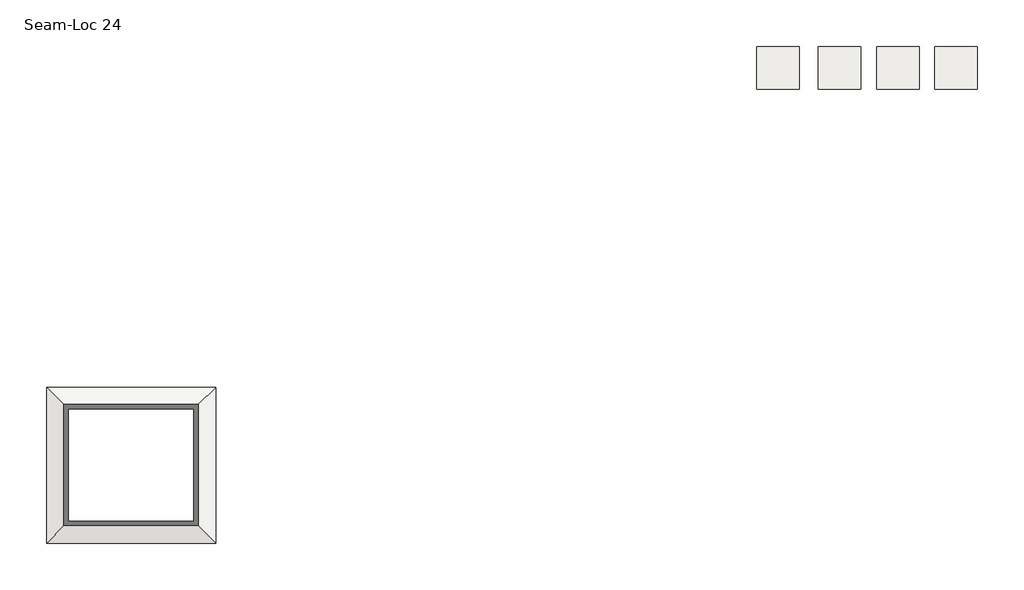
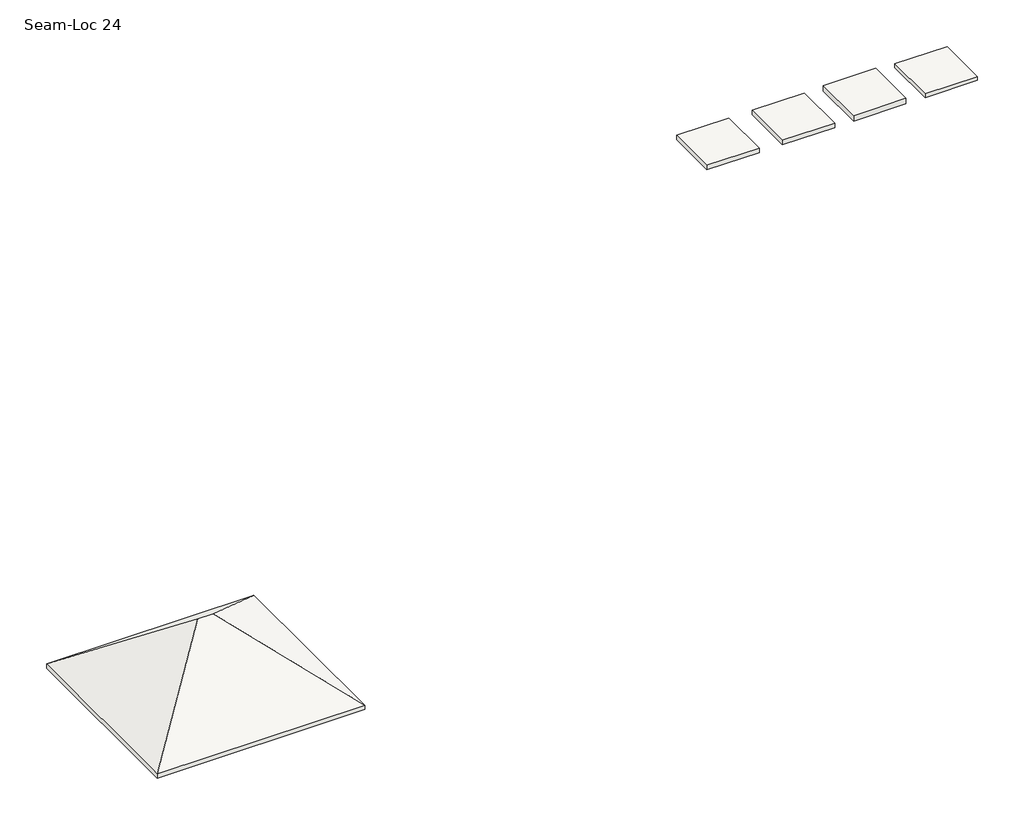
# One storey: 5 roofs.
"""IFC4 building model written with IfcOpenShell, lengths in millimetres."""

from ifc_helpers import new_model, si_unit, frame, origin, place, context, project, spatial, polyline, outline, extrude, faceted_brep, element, save

model = new_model("IFC4")

# Units and contexts
model_context = context("Model", 3, world=origin())
ifc_project = project(units=[si_unit("LENGTHUNIT", "METRE", prefix="MILLI")], contexts=[model_context])

# Site, building, storey
site = spatial("IfcSite", under=ifc_project)
building = spatial("IfcBuilding", under=site)
storey = spatial("IfcBuildingStorey", under=building, Name="Seam-Loc 24", Elevation=3657.6)

# Roofs
placement = place(None, origin())
element("IfcRoof", 1, ObjectType="Magna-Loc 16\" OC - Steel Deck", at=placement, inside=storey, context=model_context, shape_type="Brep", body=[
    faceted_brep([(-26973.8419343, -10321.3758518, 7847.409375), (-21387.4294343, -4734.9633518, 3657.6), (-21387.4294343, -15907.7883518, 3657.6), (-33474.6544343, -4734.9633518, 3657.6), (-27888.2419343, -10321.3758518, 7847.409375), (-33474.6544343, -15907.7883518, 3657.6), (-21387.4294343, -4734.9633518, 3923.50625), (-26973.8419343, -10321.3758518, 8113.315625), (-21387.4294343, -15907.7883518, 3923.50625), (-33474.6544343, -4734.9633518, 3923.50625), (-33474.6544343, -15907.7883518, 3923.50625), (-27888.2419343, -10321.3758518, 8113.315625)], [[[0, 1, 2]], [[3, 4, 5]], [[1, 0, 4, 3]], [[5, 4, 0, 2]], [[6, 7, 8]], [[9, 10, 11]], [[6, 9, 11, 7]], [[10, 8, 7, 11]], [[3, 9, 6, 1]], [[5, 10, 9, 3]], [[2, 8, 10, 5]], [[1, 6, 8, 2]]]),
])
element("IfcRoof", 2, ObjectType="Seam-Loc 24 - Solid Substrate", at=placement, inside=storey, context=model_context, shape_type="SweptSolid", body=[
    extrude(outline(polyline([(17322.4091677, 19652.5817436), (20370.4091677, 19652.5817436), (20370.4091677, 16604.5817436), (17322.4091677, 16604.5817436), (17322.4091677, 19652.5817436)])), frame((0.0, 0.0, 3657.6), z_axis=(0.0, 0.0, 1.0), x_axis=(1.0, 0.0, 0.0)), (0.0, 0.0, 1.0), 274.6375),
])
element("IfcRoof", 3, ObjectType="Seam-Loc 24 - Steel Deck", at=placement, inside=storey, context=model_context, shape_type="SweptSolid", body=[
    extrude(outline(polyline([(30051.4341006, 19652.5817436), (33099.4341006, 19652.5817436), (33099.4341006, 16604.5817436), (30051.4341006, 16604.5817436), (30051.4341006, 19652.5817436)])), frame((0.0, 0.0, 3657.6), z_axis=(0.0, 0.0, 1.0), x_axis=(1.0, 0.0, 0.0)), (0.0, 0.0, 1.0), 230.1875),
])
element("IfcRoof", 4, ObjectType="Seam-Loc 24 - Steel Framing", at=placement, inside=storey, context=model_context, shape_type="SweptSolid", body=[
    extrude(outline(polyline([(25885.8341006, 19652.5817436), (28933.8341006, 19652.5817436), (28933.8341006, 16604.5817436), (25885.8341006, 16604.5817436), (25885.8341006, 19652.5817436)])), frame((0.0, 0.0, 3657.6), z_axis=(0.0, 0.0, 1.0), x_axis=(1.0, 0.0, 0.0)), (0.0, 0.0, 1.0), 354.0125),
])
element("IfcRoof", 5, ObjectType="Seam-Loc 24 - Wood Framing", at=placement, inside=storey, context=model_context, shape_type="SweptSolid", body=[
    extrude(outline(polyline([(21720.2341006, 19652.5817436), (24768.2341006, 19652.5817436), (24768.2341006, 16604.5817436), (21720.2341006, 16604.5817436), (21720.2341006, 19652.5817436)])), frame((0.0, 0.0, 3657.6), z_axis=(0.0, 0.0, 1.0), x_axis=(1.0, 0.0, 0.0)), (0.0, 0.0, 1.0), 274.6375),
])

save(model, "model.ifc")
